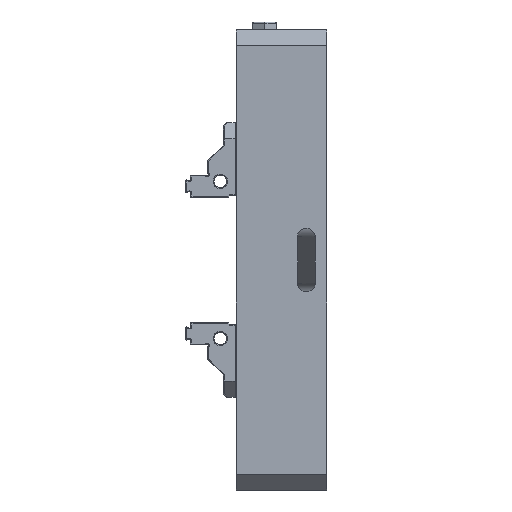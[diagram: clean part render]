
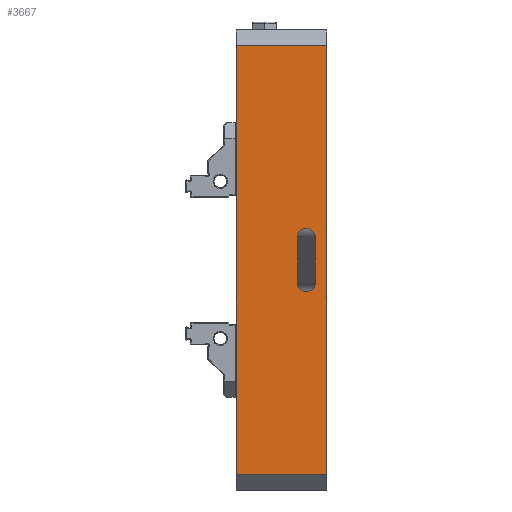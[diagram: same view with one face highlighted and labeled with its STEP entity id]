
A CAD part, left-side view. The second image highlights one B-rep face of the part: STEP entity #3667.
In plain terms, the highlighted planar face has unit normal (-1, 0, 0).
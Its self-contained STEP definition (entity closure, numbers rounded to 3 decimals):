
#438=ELLIPSE('',#30507,5.587,5.25);
#439=ELLIPSE('',#30508,5.587,5.25);
#3667=ADVANCED_FACE('',(#5719,#5720),#5021,.F.);
#5021=PLANE('',#30509);
#5719=FACE_BOUND('',#6668,.T.);
#5720=FACE_BOUND('',#6669,.T.);
#6668=EDGE_LOOP('',(#12157,#12158,#12159,#12160));
#6669=EDGE_LOOP('',(#12161,#12162,#12163,#12164));
#12157=ORIENTED_EDGE('',*,*,#21727,.T.);
#12158=ORIENTED_EDGE('',*,*,#21728,.T.);
#12159=ORIENTED_EDGE('',*,*,#21729,.T.);
#12160=ORIENTED_EDGE('',*,*,#21730,.T.);
#12161=ORIENTED_EDGE('',*,*,#21731,.T.);
#12162=ORIENTED_EDGE('',*,*,#21521,.F.);
#12163=ORIENTED_EDGE('',*,*,#21732,.T.);
#12164=ORIENTED_EDGE('',*,*,#21733,.T.);
#18133=VERTEX_POINT('',#46561);
#18134=VERTEX_POINT('',#46563);
#18325=VERTEX_POINT('',#47232);
#18326=VERTEX_POINT('',#47233);
#18327=VERTEX_POINT('',#47235);
#18328=VERTEX_POINT('',#47237);
#18329=VERTEX_POINT('',#47240);
#18330=VERTEX_POINT('',#47242);
#21521=EDGE_CURVE('',#18133,#18134,#25119,.T.);
#21727=EDGE_CURVE('',#18325,#18326,#25286,.T.);
#21728=EDGE_CURVE('',#18326,#18327,#438,.T.);
#21729=EDGE_CURVE('',#18327,#18328,#25287,.T.);
#21730=EDGE_CURVE('',#18328,#18325,#439,.T.);
#21731=EDGE_CURVE('',#18329,#18134,#25288,.T.);
#21732=EDGE_CURVE('',#18133,#18330,#25289,.T.);
#21733=EDGE_CURVE('',#18330,#18329,#25290,.T.);
#25119=LINE('',#46562,#27851);
#25286=LINE('',#47231,#28018);
#25287=LINE('',#47236,#28019);
#25288=LINE('',#47239,#28020);
#25289=LINE('',#47241,#28021);
#25290=LINE('',#47243,#28022);
#27851=VECTOR('',#34888,1.);
#28018=VECTOR('',#35103,1.);
#28019=VECTOR('',#35106,1.);
#28020=VECTOR('',#35109,1.);
#28021=VECTOR('',#35110,1.);
#28022=VECTOR('',#35111,1.);
#30507=AXIS2_PLACEMENT_3D('',#47234,#35104,#35105);
#30508=AXIS2_PLACEMENT_3D('',#47238,#35107,#35108);
#30509=AXIS2_PLACEMENT_3D('',#47244,#35112,#35113);
#34888=DIRECTION('',(0.,0.,-1.));
#35103=DIRECTION('',(0.,0.,-1.));
#35104=DIRECTION('',(1.,0.,0.));
#35105=DIRECTION('',(0.,-1.,0.));
#35106=DIRECTION('',(0.,0.,1.));
#35107=DIRECTION('',(1.,0.,0.));
#35108=DIRECTION('',(0.,1.,0.));
#35109=DIRECTION('',(0.,-1.,0.));
#35110=DIRECTION('',(0.,1.,0.));
#35111=DIRECTION('',(0.,0.,-1.));
#35112=DIRECTION('',(1.,0.,0.));
#35113=DIRECTION('',(0.,0.,-1.));
#46561=CARTESIAN_POINT('',(1831.552,691.136,540.));
#46562=CARTESIAN_POINT('',(1831.552,691.136,300.));
#46563=CARTESIAN_POINT('',(1831.552,691.136,270.));
#47231=CARTESIAN_POINT('',(1831.552,698.291,300.));
#47232=CARTESIAN_POINT('',(1831.552,698.291,419.75));
#47233=CARTESIAN_POINT('',(1831.552,698.291,390.25));
#47234=CARTESIAN_POINT('',(1831.552,703.878,390.25));
#47235=CARTESIAN_POINT('',(1831.552,709.465,390.25));
#47236=CARTESIAN_POINT('',(1831.552,709.465,300.));
#47237=CARTESIAN_POINT('',(1831.552,709.465,419.75));
#47238=CARTESIAN_POINT('',(1831.552,703.878,419.75));
#47239=CARTESIAN_POINT('',(1831.552,748.136,270.));
#47240=CARTESIAN_POINT('',(1831.552,748.136,270.));
#47241=CARTESIAN_POINT('',(1831.552,748.136,540.));
#47242=CARTESIAN_POINT('',(1831.552,748.136,540.));
#47243=CARTESIAN_POINT('',(1831.552,748.136,300.));
#47244=CARTESIAN_POINT('',(1831.552,748.136,300.));
